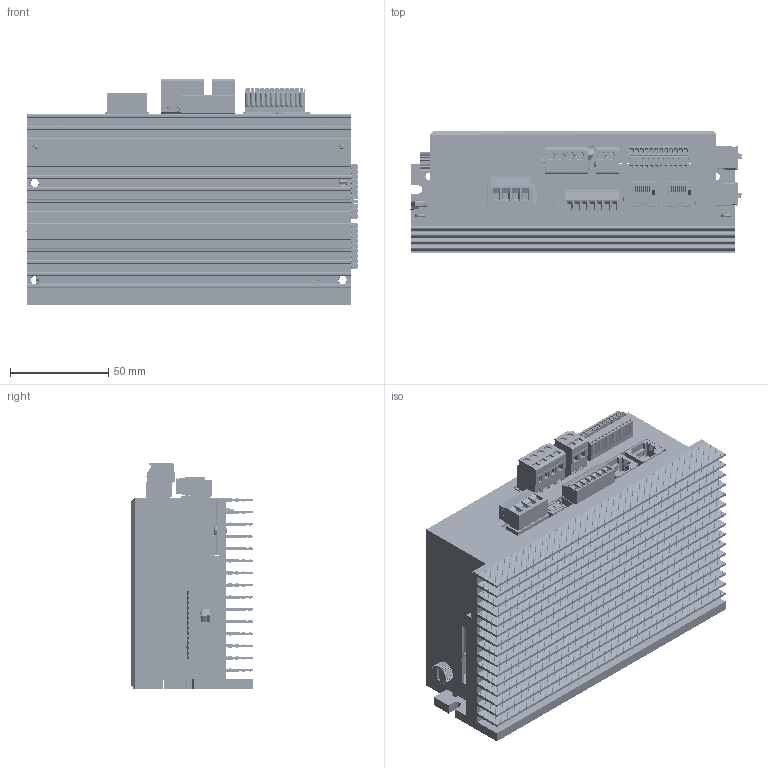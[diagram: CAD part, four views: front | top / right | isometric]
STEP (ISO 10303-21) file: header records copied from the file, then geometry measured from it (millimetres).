
FILE_DESCRIPTION((''),'2;1');
FILE_NAME('SW1A4080N3B1-00_ASM','2011-11-21T',('Renato Bisson'),(''),'PRO/ENGINEER BY PARAMETRIC TECHNOLOGY CORPORATION, 2006320','PRO/ENGINEER BY PARAMETRIC TECHNOLOGY CORPORATION, 2006320','');
FILE_SCHEMA(('CONFIG_CONTROL_DESIGN'));
Products named in the file (63): RA00742; AD-00744-00; DIST_MF_M2E5X5; PB-DMD00-00; SMD_4-DIPSWITCH_RIGTH_ANGLE; SMD_8-DIPSWITCH_RIGTH_ANGLE; CE_16X25_P7E62; WPW05VIS-00; 1803329; 1881516; 1881464; SMD_COND_ELETTROL_6E3X6E3; SMD_COND_ELETTROL_8X10E5; LHWPW05-00; TO263AB; C-1241050-04-3-A7; 1803620; 1881341; 1881396; HW-10-20-F-D-822-SM_BASE; HW-10-20-F-D-822-SM_TERMINALE; HW-10-20-F-D-822-SM_STACK; HW-10-20-F-D-822-SM_ASM; LS7MH-5X20-V; 1757268; 1757035; CP8E5X26E5P22E5; 901220762; C-5555153-01-B-3D; DMD00-V20_WIRE_RED; DMD00-V20_WIRE_YG; JUMPER; DMD00-V20_ASM; PB-DMX00-00; 1881545; 1881422; 1881532; 1881419; C-08-X_-06_ANY; SSW-XX-D_FORMULA_ANY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
Assembly tree (130 placements, depth 4):
  SW1A4080N3B1-00_ASM
    RA00742
    AD-00744-00
    DIST_MF_M2E5X5  x2
    DMD00-V20_ASM
      PB-DMD00-00
      SMD_4-DIPSWITCH_RIGTH_ANGLE
      SMD_8-DIPSWITCH_RIGTH_ANGLE
      CE_16X25_P7E62
      WPW05VIS-00
      1803329
      1881516
      1881464
      SMD_COND_ELETTROL_6E3X6E3
      SMD_COND_ELETTROL_8X10E5  x2
      LHWPW05-00
      TO263AB  x8
      C-1241050-04-3-A7
      1803620
      1881341
      1881396
      HW-10-20-F-D-822-SM_ASM
        HW-10-20-F-D-822-SM_BASE
        HW-10-20-F-D-822-SM_TERMINALE  x20
        HW-10-20-F-D-822-SM_STACK
      LS7MH-5X20-V
      1757268
      1757035
      CP8E5X26E5P22E5  x2
      901220762
      C-5555153-01-B-3D  x2
      DMD00-V20_WIRE_RED  x3
      DMD00-V20_WIRE_YG
      JUMPER  x4
    DMX00-V01_ASM
      PB-DMX00-00
      1881516
      1881396
      1881545
      1881422
      1881532
      1881419
      SSW-110-01-X-D_ANY_ASM
        C-08-X_-06_ANY  x20
        SSW-XX-D_FORMULA_ANY
      072104641040
      721104026000
      PORTAFUSIBILE_C1034
      CE_18X35E5_P7E62_ORIZZONTALE  x4
      CE_16X25_P7E62_ORIZZONTALE
      PONTE_DIODI_INSERTO_6MM
      KBU6G
      NTC_DIAMETRO_22MM
      ATE_3CS_4W  x2
      721462001000
      721102026000
    TCC_M2E5X05  x7
    DIST_MF_M2E5X30  x3
    M3X18_SVASATA_CROCE
    MC-00749-00
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Bounding box: 169.31 x 62.3 x 115.5 mm (x, y, z)
Topology: 126 solids, 143 shells, 18748 faces, 50138 edges, 32576 vertices
Faces by surface type: plane 14091, cylinder 3899, cone 326, torus 167, bspline 137, sphere 104, extrusion 24
Entity records: 500884 total; most frequent: CARTESIAN_POINT 110697, ORIENTED_EDGE 82432, DIRECTION 77898, EDGE_CURVE 41252, VECTOR 33252, LINE 33228, VERTEX_POINT 26795, AXIS2_PLACEMENT_3D 22323
